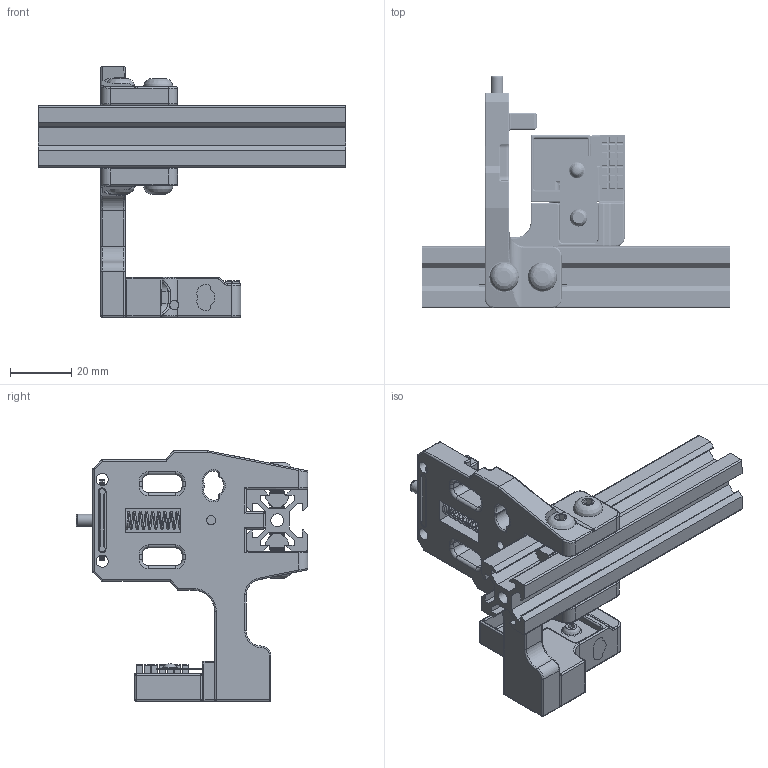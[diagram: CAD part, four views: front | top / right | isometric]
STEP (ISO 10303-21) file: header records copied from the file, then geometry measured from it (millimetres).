
FILE_DESCRIPTION(/* description */ (''),/* implementation_level */ '2;1');
FILE_NAME(/* name */ 'Lineux One r2.1 Dock v41.step',/* time_stamp */ '2025-08-13T20:37:36+07:00',/* author */ (''),/* organization */ (''),/* preprocessor_version */ 'ST-DEVELOPER v20.1',/* originating_system */ 'Autodesk Translation Framework v14.10.0.0',/* authorisation */ '');
FILE_SCHEMA (('AUTOMOTIVE_DESIGN { 1 0 10303 214 3 1 1 }'));
Products named in the file (37): Lineux One r2.1 Dock; Nozzle Blocker; Drip Tray; 6x3mm magnet (2); 6x3mm magnet (3); [a]_drip_tray; Nozzle Blocker (1); Bambulab A1 Brush; nozzle_blocker_mount (1); 6x3mm magnet (5); m3 washer (1); AA battery terminal; m3 x 10mm bhcs (4); m3 hex nut (3); 6x3mm magnet (4); m3 x 10mm bhcs (2); [a]_logo_nb; Dock; dock_1; Hardware (1); m3 x 6mm bhcs (1); 2020 Drop-in T-nut, M5; 2020 Drop-in T-nut, M5_1; m5 x 12mm bhcs (1); m5 x 12mm bhcs (3); Wire; m5 x 12mm bhcs; m5 x 12mm bhcs (2); spring OD6 ID5 20mm; m3 x OD4 16mm threaded dowel pin; m3 heat insert; 6 x 3mm n52 magnet; 8 x 5mm n52 magnet; 8 x 5mm n52 magnet (1); 2020 Drop-in T-nut, M5_2; 2020 Drop-in T-nut, M5_3; 2020 Extrusion
Assembly tree (36 placements, depth 4):
  Lineux One r2.1 Dock
    Nozzle Blocker
      Drip Tray
        6x3mm magnet (2)
        6x3mm magnet (3)
        [a]_drip_tray
      Nozzle Blocker (1)
        Bambulab A1 Brush
        nozzle_blocker_mount (1)
        6x3mm magnet (5)
        m3 washer (1)
        AA battery terminal
        m3 x 10mm bhcs (4)
        m3 hex nut (3)
        6x3mm magnet (4)
        m3 x 10mm bhcs (2)
        [a]_logo_nb
    Dock
      dock_1
      Hardware (1)
        m3 x 6mm bhcs (1)
        2020 Drop-in T-nut, M5
        2020 Drop-in T-nut, M5_1
        m5 x 12mm bhcs (1)
        m5 x 12mm bhcs (3)
        Wire
        m5 x 12mm bhcs
        m5 x 12mm bhcs (2)
        spring OD6 ID5 20mm
        m3 x OD4 16mm threaded dowel pin
        m3 heat insert
        6 x 3mm n52 magnet
        8 x 5mm n52 magnet
        8 x 5mm n52 magnet (1)
        2020 Drop-in T-nut, M5_2
        2020 Drop-in T-nut, M5_3
    2020 Extrusion
Bounding box: 100 x 75.5 x 81.66 mm (x, y, z)
Volume: 55422.2 mm3; surface area: 43243 mm2
Topology: 35 solids, 35 shells, 1595 faces, 4094 edges, 2572 vertices
Faces by surface type: cylinder 775, plane 515, bspline 150, torus 81, sphere 42, cone 32
Full cylindrical faces by diameter (mm): 0.3 x14, 2.356 x52, 2.5 x5, 2.529 x11, 2.729 x1, 2.927 x49, 3 x8, 3.086 x5, 3.4 x2, 3.99 x16, 4 x3, 4.145 x2, 4.2 x2, 4.7 x1, 4.901 x36, 5.12 x12, 5.5 x4, 5.7 x3, 6 x5, 6.1 x5, 6.7 x1, 7 x1, 8 x2, 8.1 x2, 10 x2
Entity records: 105480 total; most frequent: CARTESIAN_POINT 67769, ORIENTED_EDGE 8110, DIRECTION 6943, EDGE_CURVE 4055, VERTEX_POINT 2572, AXIS2_PLACEMENT_3D 2568, LINE 1807, VECTOR 1807
